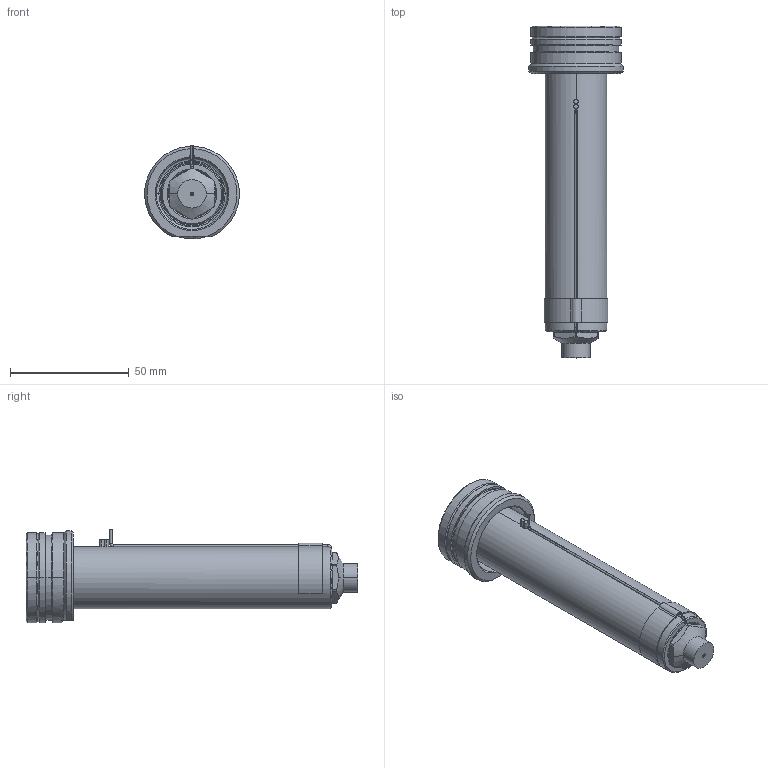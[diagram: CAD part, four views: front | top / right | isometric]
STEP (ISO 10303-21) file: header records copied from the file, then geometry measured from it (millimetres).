
FILE_DESCRIPTION((''),'2;1');
FILE_NAME('EO08_PG-FB_WR_120_SW','2024-02-19T11:31:39',('sundharh'),(''),'CREO PARAMETRIC BY PTC INC, 2023154','CREO PARAMETRIC BY PTC INC, 2023154','');
FILE_SCHEMA(('CONFIG_CONTROL_DESIGN'));
Length unit declared in the file: millimetre
Products named in the file (1): EO08_PG-FB_WR_120_SW
Bounding box: 39.88 x 140 x 39.52 mm (x, y, z)
Volume: 73801.9 mm3; surface area: 21960.3 mm2
Topology: 1 solids, 1 shells, 208 faces, 554 edges, 342 vertices
Faces by surface type: cylinder 81, plane 58, cone 43, torus 19, bspline 4, sphere 3
Entity records: 8035 total; most frequent: CARTESIAN_POINT 2743, DIRECTION 1166, ORIENTED_EDGE 1096, EDGE_CURVE 548, AXIS2_PLACEMENT_3D 487, VERTEX_POINT 342, CIRCLE 283, EDGE_LOOP 226
